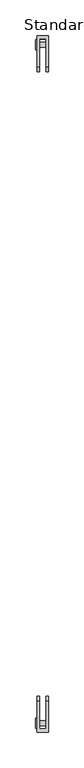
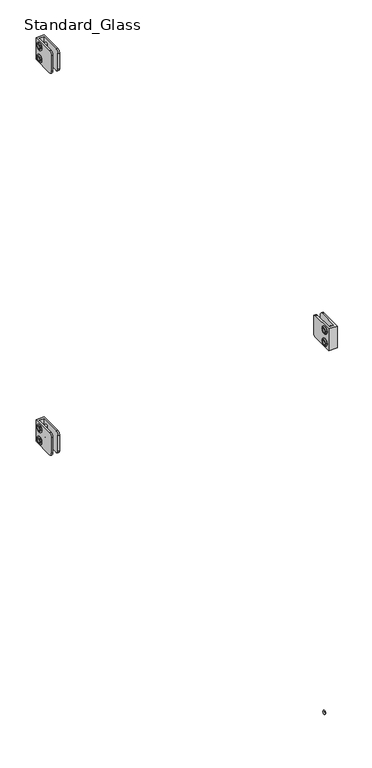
"""IFC4 building model written with IfcOpenShell, lengths in millimetres: railing geometry, Baluster-Excess-Fill-Straight-Panel-VIVA : Standard_Glass."""

from ifc_helpers import new_model, si_unit, point, frame, origin, place, context, project, spatial, polyline, circle_curve, ellipse_curve, trimmed, outline, extrude, source, transform, mapped, element, save
from ifc_brep_helpers import plane_surface, cylinder_surface, revolved_surface, advanced_brep


def standard_glass_4d50fb5e(model_context):
    return source(origin(), model_context, "Body", "SolidModel", [
        extrude(outline(polyline([(17.3185433, 917.178125), (15.2715791, 913.6326791), (11.1776508, 913.6326791), (9.1306867, 917.178125), (11.1776508, 920.7235709), (15.2715791, 920.7235709), (17.3185433, 917.178125)])), frame((21.7024185, 0.0, 0.0), z_axis=(1.0, 0.0, 0.0), x_axis=(0.0, 1.0, 0.0)), (0.0, 0.0, 1.0), 1.4969696),
        advanced_brep(
        [(36.7665, 16.7700609, 917.178125), (36.7665, 9.6791691, 917.178125), (24.0665, 9.6791691, 917.178125), (24.0665, 16.7700609, 917.178125), (24.0665, 5.8168259, 917.178125), (24.0665, 20.6324041, 917.178125), (23.199388, 14.8806904, 917.178125), (23.199388, 11.5685396, 917.178125), (36.7665, 11.5685396, 917.178125), (36.7665, 14.8806904, 917.178125), (23.2316551, 20.6324041, 917.178125), (23.2316551, 5.8168259, 917.178125), (21.9503831, 7.0980979, 917.178125), (21.9503831, 19.351132, 917.178125), (21.9503831, 8.9260194, 917.178125), (21.9503831, 17.5232105, 917.178125), (23.199388, 8.9260194, 917.178125), (23.199388, 17.5232105, 917.178125)],
        [
            (0, 1, circle_curve(frame((36.7665, 13.224615, 917.178125), z_axis=(-1.0, 0.0, 0.0), x_axis=(0.0, -1.0, 0.0)), 3.5454459)),
            (1, 2),
            (2, 3, circle_curve(frame((24.0665, 13.224615, 917.178125), z_axis=(1.0, 0.0, 0.0), x_axis=(0.0, -1.0, 0.0)), 3.5454459)),
            (3, 0),
            (1, 0, circle_curve(frame((36.7665, 13.224615, 917.178125), z_axis=(-1.0, 0.0, 0.0), x_axis=(0.0, -1.0, 0.0)), 3.5454459)),
            (3, 2, circle_curve(frame((24.0665, 13.224615, 917.178125), z_axis=(1.0, 0.0, 0.0), x_axis=(0.0, -1.0, 0.0)), 3.5454459)),
            (2, 4),
            (4, 5, circle_curve(frame((24.0665, 13.224615, 917.178125), z_axis=(1.0, 0.0, 0.0), x_axis=(0.0, -1.0, 0.0)), 7.4077891)),
            (5, 3),
            (5, 4, circle_curve(frame((24.0665, 13.224615, 917.178125), z_axis=(1.0, 0.0, 0.0), x_axis=(0.0, -1.0, 0.0)), 7.4077891)),
            (6, 7, circle_curve(frame((23.199388, 13.224615, 917.178125), z_axis=(-1.0, 0.0, 0.0), x_axis=(0.0, -1.0, 0.0)), 1.6560754)),
            (7, 8),
            (8, 9, circle_curve(frame((36.7665, 13.224615, 917.178125), z_axis=(1.0, 0.0, 0.0), x_axis=(0.0, -1.0, 0.0)), 1.6560754)),
            (9, 6),
            (7, 6, circle_curve(frame((23.199388, 13.224615, 917.178125), z_axis=(-1.0, 0.0, 0.0), x_axis=(0.0, -1.0, 0.0)), 1.6560754)),
            (9, 8, circle_curve(frame((36.7665, 13.224615, 917.178125), z_axis=(1.0, 0.0, 0.0), x_axis=(0.0, -1.0, 0.0)), 1.6560754)),
            (10, 11, circle_curve(frame((23.2316551, 13.224615, 917.178125), z_axis=(-1.0, 0.0, 0.0), x_axis=(0.0, -1.0, 0.0)), 7.4077891)),
            (11, 12, circle_curve(frame((23.2316551, 7.0980979, 917.178125), z_axis=(0.0, 0.0, -1.0), x_axis=(0.0, -1.0, 0.0)), 1.281272)),
            (12, 13, circle_curve(frame((21.9503831, 13.224615, 917.178125), z_axis=(1.0, 0.0, 0.0), x_axis=(0.0, -1.0, 0.0)), 6.1265171)),
            (13, 10, circle_curve(frame((23.2316551, 19.351132, 917.178125), z_axis=(0.0, 0.0, -1.0), x_axis=(0.0, 1.0, 0.0)), 1.281272)),
            (11, 10, circle_curve(frame((23.2316551, 13.224615, 917.178125), z_axis=(-1.0, 0.0, 0.0), x_axis=(0.0, -1.0, 0.0)), 7.4077891)),
            (13, 12, circle_curve(frame((21.9503831, 13.224615, 917.178125), z_axis=(1.0, 0.0, 0.0), x_axis=(0.0, -1.0, 0.0)), 6.1265171)),
            (12, 14),
            (14, 15, circle_curve(frame((21.9503831, 13.224615, 917.178125), z_axis=(1.0, 0.0, 0.0), x_axis=(0.0, -1.0, 0.0)), 4.2985955)),
            (15, 13),
            (15, 14, circle_curve(frame((21.9503831, 13.224615, 917.178125), z_axis=(1.0, 0.0, 0.0), x_axis=(0.0, -1.0, 0.0)), 4.2985955)),
            (4, 11),
            (10, 5),
            (8, 1),
            (0, 9),
            (14, 16),
            (16, 17, circle_curve(frame((23.199388, 13.224615, 917.178125), z_axis=(1.0, 0.0, 0.0), x_axis=(0.0, -1.0, 0.0)), 4.2985955)),
            (17, 15),
            (17, 16, circle_curve(frame((23.199388, 13.224615, 917.178125), z_axis=(1.0, 0.0, 0.0), x_axis=(0.0, -1.0, 0.0)), 4.2985955)),
            (16, 7),
            (6, 17),
        ],
        [
            cylinder_surface(frame((27.5632331, 13.224615, 917.178125), z_axis=(1.0, 0.0, 0.0), x_axis=(0.0, -1.0, 0.0)), 3.5454459),
            plane_surface(frame((24.0665, 13.224615, 917.178125), z_axis=(1.0, 0.0, 0.0), x_axis=(0.0, -1.0, 0.0))),
            revolved_surface(polyline([(36.7665, 11.5685396, 917.178125), (23.199388, 11.5685396, 917.178125)]), (27.5632331, 13.224615, 917.178125), (1.0, 0.0, 0.0)),
            revolved_surface(trimmed(ellipse_curve(frame((23.2316551, 7.0980979, 917.178125), z_axis=(0.0, 0.0, 1.0), x_axis=(0.0, -1.0, 0.0)), 1.281272, 1.281272), [point((21.9503831, 7.0980979, 917.178125))], [point((23.2316551, 5.8168259, 917.178125))], True, "CARTESIAN"), (27.5632331, 13.224615, 917.178125), (1.0, 0.0, 0.0)),
            plane_surface(frame((21.9503831, 13.224615, 917.178125), z_axis=(-1.0, 0.0, 0.0), x_axis=(0.0, -1.0, 0.0))),
            cylinder_surface(frame((27.5632331, 13.224615, 917.178125), z_axis=(1.0, 0.0, 0.0), x_axis=(0.0, -1.0, 0.0)), 7.4077891),
            plane_surface(frame((36.7665, 13.224615, 917.178125), z_axis=(1.0, 0.0, 0.0), x_axis=(0.0, -1.0, 0.0))),
            revolved_surface(polyline([(23.199388, 8.926019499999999, 917.178125), (21.9503831, 8.926019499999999, 917.178125)]), (27.5632331, 13.224615, 917.178125), (1.0, 0.0, 0.0)),
            plane_surface(frame((23.199388, 13.224615, 917.178125), z_axis=(-1.0, 0.0, 0.0), x_axis=(0.0, -1.0, 0.0))),
        ],
        [
            (0, [[1, 2, 3, 4]]),
            (0, [[5, -4, 6, -2]]),
            (1, [[-3, 7, 8, 9]]),
            (1, [[-6, -9, 10, -7]]),
            (2, [[11, 12, 13, 14]]),
            (2, [[15, -14, 16, -12]]),
            (3, [[17, 18, 19, 20]]),
            (3, [[21, -20, 22, -18]]),
            (4, [[-19, 23, 24, 25]]),
            (4, [[-22, -25, 26, -23]]),
            (5, [[-8, 27, -17, 28]]),
            (5, [[-10, -28, -21, -27]]),
            (6, [[-13, 29, -1, 30]]),
            (6, [[-16, -30, -5, -29]]),
            (7, [[-24, 31, 32, 33]]),
            (7, [[-26, -33, 34, -31]]),
            (8, [[-32, 35, -11, 36]]),
            (8, [[-34, -36, -15, -35]]),
        ],
    ),
        advanced_brep(
        [(36.7665, 16.7700609, 892.571875), (36.7665, 9.6791691, 892.571875), (24.0665, 9.6791691, 892.571875), (24.0665, 16.7700609, 892.571875), (24.0665, 5.8168259, 892.571875), (24.0665, 20.6324041, 892.571875), (23.199388, 14.8806904, 892.571875), (23.199388, 11.5685396, 892.571875), (36.7665, 11.5685396, 892.571875), (36.7665, 14.8806904, 892.571875), (23.2316551, 20.6324041, 892.571875), (23.2316551, 5.8168259, 892.571875), (21.9503831, 7.0980979, 892.571875), (21.9503831, 19.351132, 892.571875), (21.9503831, 8.9260194, 892.571875), (21.9503831, 17.5232105, 892.571875), (23.199388, 8.9260194, 892.571875), (23.199388, 17.5232105, 892.571875)],
        [
            (0, 1, circle_curve(frame((36.7665, 13.224615, 892.571875), z_axis=(-1.0, 0.0, 0.0), x_axis=(0.0, -1.0, 0.0)), 3.5454459)),
            (1, 2),
            (2, 3, circle_curve(frame((24.0665, 13.224615, 892.571875), z_axis=(1.0, 0.0, 0.0), x_axis=(0.0, -1.0, 0.0)), 3.5454459)),
            (3, 0),
            (1, 0, circle_curve(frame((36.7665, 13.224615, 892.571875), z_axis=(-1.0, 0.0, 0.0), x_axis=(0.0, -1.0, 0.0)), 3.5454459)),
            (3, 2, circle_curve(frame((24.0665, 13.224615, 892.571875), z_axis=(1.0, 0.0, 0.0), x_axis=(0.0, -1.0, 0.0)), 3.5454459)),
            (2, 4),
            (4, 5, circle_curve(frame((24.0665, 13.224615, 892.571875), z_axis=(1.0, 0.0, 0.0), x_axis=(0.0, -1.0, 0.0)), 7.4077891)),
            (5, 3),
            (5, 4, circle_curve(frame((24.0665, 13.224615, 892.571875), z_axis=(1.0, 0.0, 0.0), x_axis=(0.0, -1.0, 0.0)), 7.4077891)),
            (6, 7, circle_curve(frame((23.199388, 13.224615, 892.571875), z_axis=(-1.0, 0.0, 0.0), x_axis=(0.0, -1.0, 0.0)), 1.6560754)),
            (7, 8),
            (8, 9, circle_curve(frame((36.7665, 13.224615, 892.571875), z_axis=(1.0, 0.0, 0.0), x_axis=(0.0, -1.0, 0.0)), 1.6560754)),
            (9, 6),
            (7, 6, circle_curve(frame((23.199388, 13.224615, 892.571875), z_axis=(-1.0, 0.0, 0.0), x_axis=(0.0, -1.0, 0.0)), 1.6560754)),
            (9, 8, circle_curve(frame((36.7665, 13.224615, 892.571875), z_axis=(1.0, 0.0, 0.0), x_axis=(0.0, -1.0, 0.0)), 1.6560754)),
            (10, 11, circle_curve(frame((23.2316551, 13.224615, 892.571875), z_axis=(-1.0, 0.0, 0.0), x_axis=(0.0, -1.0, 0.0)), 7.4077891)),
            (11, 12, circle_curve(frame((23.2316551, 7.0980979, 892.571875), z_axis=(0.0, 0.0, -1.0), x_axis=(0.0, -1.0, 0.0)), 1.281272)),
            (12, 13, circle_curve(frame((21.9503831, 13.224615, 892.571875), z_axis=(1.0, 0.0, 0.0), x_axis=(0.0, -1.0, 0.0)), 6.1265171)),
            (13, 10, circle_curve(frame((23.2316551, 19.351132, 892.571875), z_axis=(0.0, 0.0, -1.0), x_axis=(0.0, 1.0, 0.0)), 1.281272)),
            (11, 10, circle_curve(frame((23.2316551, 13.224615, 892.571875), z_axis=(-1.0, 0.0, 0.0), x_axis=(0.0, -1.0, 0.0)), 7.4077891)),
            (13, 12, circle_curve(frame((21.9503831, 13.224615, 892.571875), z_axis=(1.0, 0.0, 0.0), x_axis=(0.0, -1.0, 0.0)), 6.1265171)),
            (12, 14),
            (14, 15, circle_curve(frame((21.9503831, 13.224615, 892.571875), z_axis=(1.0, 0.0, 0.0), x_axis=(0.0, -1.0, 0.0)), 4.2985955)),
            (15, 13),
            (15, 14, circle_curve(frame((21.9503831, 13.224615, 892.571875), z_axis=(1.0, 0.0, 0.0), x_axis=(0.0, -1.0, 0.0)), 4.2985955)),
            (8, 1),
            (0, 9),
            (4, 11),
            (10, 5),
            (14, 16),
            (16, 17, circle_curve(frame((23.199388, 13.224615, 892.571875), z_axis=(1.0, 0.0, 0.0), x_axis=(0.0, -1.0, 0.0)), 4.2985955)),
            (17, 15),
            (17, 16, circle_curve(frame((23.199388, 13.224615, 892.571875), z_axis=(1.0, 0.0, 0.0), x_axis=(0.0, -1.0, 0.0)), 4.2985955)),
            (16, 7),
            (6, 17),
        ],
        [
            cylinder_surface(frame((27.5632331, 13.224615, 892.571875), z_axis=(1.0, 0.0, 0.0), x_axis=(0.0, -1.0, 0.0)), 3.5454459),
            plane_surface(frame((24.0665, 13.224615, 892.571875), z_axis=(1.0, 0.0, 0.0), x_axis=(0.0, -1.0, 0.0))),
            revolved_surface(polyline([(36.7665, 11.5685396, 892.571875), (23.199388, 11.5685396, 892.571875)]), (27.5632331, 13.224615, 892.571875), (1.0, 0.0, 0.0)),
            revolved_surface(trimmed(ellipse_curve(frame((23.2316551, 7.0980979, 892.571875), z_axis=(0.0, 0.0, 1.0), x_axis=(0.0, -1.0, 0.0)), 1.281272, 1.281272), [point((21.9503831, 7.0980979, 892.571875))], [point((23.2316551, 5.8168259, 892.571875))], True, "CARTESIAN"), (27.5632331, 13.224615, 892.571875), (1.0, 0.0, 0.0)),
            plane_surface(frame((21.9503831, 13.224615, 892.571875), z_axis=(-1.0, 0.0, 0.0), x_axis=(0.0, -1.0, 0.0))),
            plane_surface(frame((36.7665, 13.224615, 892.571875), z_axis=(1.0, 0.0, 0.0), x_axis=(0.0, -1.0, 0.0))),
            cylinder_surface(frame((27.5632331, 13.224615, 892.571875), z_axis=(1.0, 0.0, 0.0), x_axis=(0.0, -1.0, 0.0)), 7.4077891),
            revolved_surface(polyline([(23.199388, 8.926019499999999, 892.571875), (21.9503831, 8.926019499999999, 892.571875)]), (27.5632331, 13.224615, 892.571875), (1.0, 0.0, 0.0)),
            plane_surface(frame((23.199388, 13.224615, 892.571875), z_axis=(-1.0, 0.0, 0.0), x_axis=(0.0, -1.0, 0.0))),
        ],
        [
            (0, [[1, 2, 3, 4]]),
            (0, [[5, -4, 6, -2]]),
            (1, [[-3, 7, 8, 9]]),
            (1, [[-6, -9, 10, -7]]),
            (2, [[11, 12, 13, 14]]),
            (2, [[15, -14, 16, -12]]),
            (3, [[17, 18, 19, 20]]),
            (3, [[21, -20, 22, -18]]),
            (4, [[-19, 23, 24, 25]]),
            (4, [[-22, -25, 26, -23]]),
            (5, [[-13, 27, -1, 28]]),
            (5, [[-16, -28, -5, -27]]),
            (6, [[-8, 29, -17, 30]]),
            (6, [[-10, -30, -21, -29]]),
            (7, [[-24, 31, 32, 33]]),
            (7, [[-26, -33, 34, -31]]),
            (8, [[-32, 35, -11, 36]]),
            (8, [[-34, -36, -15, -35]]),
        ],
    ),
        extrude(outline(polyline([(17.3185433, 892.571875), (15.2715791, 889.0264291), (11.1776508, 889.0264291), (9.1306867, 892.571875), (11.1776508, 896.1173209), (15.2715791, 896.1173209), (17.3185433, 892.571875)])), frame((21.7024185, 0.0, 0.0), z_axis=(1.0, 0.0, 0.0), x_axis=(0.0, 1.0, 0.0)), (0.0, 0.0, 1.0), 1.4969696),
        advanced_brep(
        [(24.0665, 25.8579597, 927.1), (24.0665, 25.8579597, 882.65), (24.0665, -18.5920403, 882.65), (24.0665, -24.9420403, 889.0), (24.0665, -24.9420403, 920.75), (24.0665, -18.5920403, 927.1), (39.9415, 25.8579597, 927.1), (39.9415, -18.5920403, 927.1), (39.9415, -24.9420403, 920.75), (39.9415, -24.9420403, 889.0), (39.9415, -18.5920403, 882.65), (39.9415, 25.8579597, 882.65), (36.7665, -18.5920403, 882.65), (36.7665, 21.1398793, 882.65), (27.2415, 21.1398793, 882.65), (27.2415, -18.5920403, 882.65), (36.7665, 21.1398793, 927.1), (27.2415, 21.1398793, 927.1), (27.2415, -18.5920403, 927.1), (27.2415, -24.9420403, 920.75), (27.2415, -24.9420403, 889.0), (36.7665, -24.9420403, 889.0), (36.7665, -24.9420403, 920.75), (36.7665, -18.5920403, 927.1)],
        [
            (0, 1),
            (1, 2),
            (2, 3, circle_curve(frame((24.0665, -18.5920403, 889.0), z_axis=(-1.0, 0.0, 0.0), x_axis=(0.0, -1.0, 0.0)), 6.35)),
            (3, 4),
            (4, 5, circle_curve(frame((24.0665, -18.5920403, 920.75), z_axis=(-1.0, 0.0, 0.0), x_axis=(0.0, -1.0, 0.0)), 6.35)),
            (5, 0),
            (6, 7),
            (7, 8, circle_curve(frame((39.9415, -18.5920403, 920.75), z_axis=(1.0, 0.0, 0.0), x_axis=(0.0, -1.0, 0.0)), 6.35)),
            (8, 9),
            (9, 10, circle_curve(frame((39.9415, -18.5920403, 889.0), z_axis=(1.0, 0.0, 0.0), x_axis=(0.0, -1.0, 0.0)), 6.35)),
            (10, 11),
            (11, 6),
            (0, 6),
            (11, 1),
            (10, 12),
            (12, 13),
            (13, 14),
            (14, 15),
            (15, 2),
            (13, 16),
            (16, 17),
            (17, 14),
            (17, 18),
            (18, 19, circle_curve(frame((27.2415, -18.5920403, 920.75), z_axis=(1.0, 0.0, 0.0), x_axis=(0.0, -1.0, 0.0)), 6.35)),
            (19, 20),
            (20, 15, circle_curve(frame((27.2415, -18.5920403, 889.0), z_axis=(1.0, 0.0, 0.0), x_axis=(0.0, -1.0, 0.0)), 6.35)),
            (12, 21, circle_curve(frame((36.7665, -18.5920403, 889.0), z_axis=(-1.0, 0.0, 0.0), x_axis=(0.0, -1.0, 0.0)), 6.35)),
            (21, 22),
            (22, 23, circle_curve(frame((36.7665, -18.5920403, 920.75), z_axis=(-1.0, 0.0, 0.0), x_axis=(0.0, -1.0, 0.0)), 6.35)),
            (23, 16),
            (20, 3),
            (9, 21),
            (19, 4),
            (8, 22),
            (18, 5),
            (7, 23),
        ],
        [
            plane_surface(frame((24.0665, 25.8579597, 882.65), z_axis=(-1.0, 0.0, 0.0), x_axis=(0.0, 0.0, -1.0))),
            plane_surface(frame((39.9415, 25.8579597, 882.65), z_axis=(1.0, 0.0, 0.0), x_axis=(0.0, 0.0, 1.0))),
            plane_surface(frame((24.0665, 25.8579597, 927.1), z_axis=(0.0, 1.0, 0.0), x_axis=(1.0, 0.0, 0.0))),
            plane_surface(frame((24.0665, 25.8579597, 882.65), z_axis=(0.0, 0.0, -1.0), x_axis=(1.0, 0.0, 0.0))),
            plane_surface(frame((36.7665, 21.1398793, 939.8), z_axis=(0.0, -1.0, 0.0), x_axis=(0.0, 0.0, -1.0))),
            plane_surface(frame((27.2415, 21.1398793, 939.8), z_axis=(1.0, 0.0, 0.0), x_axis=(0.0, 0.0, -1.0))),
            plane_surface(frame((36.7665, -37.6420403, 939.8), z_axis=(-1.0, 0.0, 0.0), x_axis=(0.0, 0.0, -1.0))),
            cylinder_surface(frame((39.9415, -18.5920403, 889.0), z_axis=(-1.0, 0.0, 0.0), x_axis=(0.0, -1.0, 0.0)), 6.35),
            plane_surface(frame((24.0665, -24.9420403, 889.0), z_axis=(0.0, -1.0, 0.0), x_axis=(1.0, 0.0, 0.0))),
            cylinder_surface(frame((39.9415, -18.5920403, 920.75), z_axis=(-1.0, 0.0, 0.0), x_axis=(0.0, -1.0, 0.0)), 6.35),
            plane_surface(frame((24.0665, -18.5920403, 927.1), z_axis=(0.0, 0.0, 1.0), x_axis=(1.0, 0.0, 0.0))),
        ],
        [
            (0, [[1, 2, 3, 4, 5, 6]]),
            (1, [[7, 8, 9, 10, 11, 12]]),
            (2, [[-1, 13, -12, 14]]),
            (3, [[-2, -14, -11, 15, 16, 17, 18, 19]]),
            (4, [[20, 21, 22, -17]]),
            (5, [[-22, 23, 24, 25, 26, -18]]),
            (6, [[-20, -16, 27, 28, 29, 30]]),
            (7, [[-3, -19, -26, 31]]),
            (7, [[-10, 32, -27, -15]]),
            (8, [[-4, -31, -25, 33]]),
            (8, [[-9, 34, -28, -32]]),
            (9, [[-5, -33, -24, 35]]),
            (9, [[-8, 36, -29, -34]]),
            (10, [[-6, -35, -23, -21, -30, -36, -7, -13]]),
        ],
    ),
        extrude(outline(polyline([(17.3185433, 138.7358896), (15.2715791, 135.1904437), (11.1776508, 135.1904437), (9.1306867, 138.7358896), (11.1776508, 142.2813355), (15.2715791, 142.2813355), (17.3185433, 138.7358896)])), frame((21.7024185, 0.0, 0.0), z_axis=(1.0, 0.0, 0.0), x_axis=(0.0, 1.0, 0.0)), (0.0, 0.0, 1.0), 1.4969696),
        advanced_brep(
        [(36.7665, 16.7700609, 138.7358896), (36.7665, 9.6791691, 138.7358896), (24.0665, 9.6791691, 138.7358896), (24.0665, 16.7700609, 138.7358896), (24.0665, 5.8168259, 138.7358896), (24.0665, 20.6324041, 138.7358896), (23.199388, 14.8806904, 138.7358896), (23.199388, 11.5685396, 138.7358896), (36.7665, 11.5685396, 138.7358896), (36.7665, 14.8806904, 138.7358896), (23.2316551, 20.6324041, 138.7358896), (23.2316551, 5.8168259, 138.7358896), (21.9503831, 7.0980979, 138.7358896), (21.9503831, 19.351132, 138.7358896), (21.9503831, 8.9260194, 138.7358896), (21.9503831, 17.5232105, 138.7358896), (23.199388, 8.9260194, 138.7358896), (23.199388, 17.5232105, 138.7358896)],
        [
            (0, 1, circle_curve(frame((36.7665, 13.224615, 138.7358896), z_axis=(-1.0, 0.0, 0.0), x_axis=(0.0, -1.0, 0.0)), 3.5454459)),
            (1, 2),
            (2, 3, circle_curve(frame((24.0665, 13.224615, 138.7358896), z_axis=(1.0, 0.0, 0.0), x_axis=(0.0, -1.0, 0.0)), 3.5454459)),
            (3, 0),
            (1, 0, circle_curve(frame((36.7665, 13.224615, 138.7358896), z_axis=(-1.0, 0.0, 0.0), x_axis=(0.0, -1.0, 0.0)), 3.5454459)),
            (3, 2, circle_curve(frame((24.0665, 13.224615, 138.7358896), z_axis=(1.0, 0.0, 0.0), x_axis=(0.0, -1.0, 0.0)), 3.5454459)),
            (2, 4),
            (4, 5, circle_curve(frame((24.0665, 13.224615, 138.7358896), z_axis=(1.0, 0.0, 0.0), x_axis=(0.0, -1.0, 0.0)), 7.4077891)),
            (5, 3),
            (5, 4, circle_curve(frame((24.0665, 13.224615, 138.7358896), z_axis=(1.0, 0.0, 0.0), x_axis=(0.0, -1.0, 0.0)), 7.4077891)),
            (6, 7, circle_curve(frame((23.199388, 13.224615, 138.7358896), z_axis=(-1.0, 0.0, 0.0), x_axis=(0.0, -1.0, 0.0)), 1.6560754)),
            (7, 8),
            (8, 9, circle_curve(frame((36.7665, 13.224615, 138.7358896), z_axis=(1.0, 0.0, 0.0), x_axis=(0.0, -1.0, 0.0)), 1.6560754)),
            (9, 6),
            (7, 6, circle_curve(frame((23.199388, 13.224615, 138.7358896), z_axis=(-1.0, 0.0, 0.0), x_axis=(0.0, -1.0, 0.0)), 1.6560754)),
            (9, 8, circle_curve(frame((36.7665, 13.224615, 138.7358896), z_axis=(1.0, 0.0, 0.0), x_axis=(0.0, -1.0, 0.0)), 1.6560754)),
            (10, 11, circle_curve(frame((23.2316551, 13.224615, 138.7358896), z_axis=(-1.0, 0.0, 0.0), x_axis=(0.0, -1.0, 0.0)), 7.4077891)),
            (11, 12, circle_curve(frame((23.2316551, 7.0980979, 138.7358896), z_axis=(0.0, 0.0, -1.0), x_axis=(0.0, -1.0, 0.0)), 1.281272)),
            (12, 13, circle_curve(frame((21.9503831, 13.224615, 138.7358896), z_axis=(1.0, 0.0, 0.0), x_axis=(0.0, -1.0, 0.0)), 6.1265171)),
            (13, 10, circle_curve(frame((23.2316551, 19.351132, 138.7358896), z_axis=(0.0, 0.0, -1.0), x_axis=(0.0, 1.0, 0.0)), 1.281272)),
            (11, 10, circle_curve(frame((23.2316551, 13.224615, 138.7358896), z_axis=(-1.0, 0.0, 0.0), x_axis=(0.0, -1.0, 0.0)), 7.4077891)),
            (13, 12, circle_curve(frame((21.9503831, 13.224615, 138.7358896), z_axis=(1.0, 0.0, 0.0), x_axis=(0.0, -1.0, 0.0)), 6.1265171)),
            (12, 14),
            (14, 15, circle_curve(frame((21.9503831, 13.224615, 138.7358896), z_axis=(1.0, 0.0, 0.0), x_axis=(0.0, -1.0, 0.0)), 4.2985955)),
            (15, 13),
            (15, 14, circle_curve(frame((21.9503831, 13.224615, 138.7358896), z_axis=(1.0, 0.0, 0.0), x_axis=(0.0, -1.0, 0.0)), 4.2985955)),
            (4, 11),
            (10, 5),
            (8, 1),
            (0, 9),
            (14, 16),
            (16, 17, circle_curve(frame((23.199388, 13.224615, 138.7358896), z_axis=(1.0, 0.0, 0.0), x_axis=(0.0, -1.0, 0.0)), 4.2985955)),
            (17, 15),
            (17, 16, circle_curve(frame((23.199388, 13.224615, 138.7358896), z_axis=(1.0, 0.0, 0.0), x_axis=(0.0, -1.0, 0.0)), 4.2985955)),
            (16, 7),
            (6, 17),
        ],
        [
            cylinder_surface(frame((27.5632331, 13.224615, 138.7358896), z_axis=(1.0, 0.0, 0.0), x_axis=(0.0, -1.0, 0.0)), 3.5454459),
            plane_surface(frame((24.0665, 13.224615, 138.7358896), z_axis=(1.0, 0.0, 0.0), x_axis=(0.0, -1.0, 0.0))),
            revolved_surface(polyline([(36.7665, 11.5685396, 138.7358896), (23.199388, 11.5685396, 138.7358896)]), (27.5632331, 13.224615, 138.7358896), (1.0, 0.0, 0.0)),
            revolved_surface(trimmed(ellipse_curve(frame((23.2316551, 7.0980979, 138.7358896), z_axis=(0.0, 0.0, 1.0), x_axis=(0.0, -1.0, 0.0)), 1.281272, 1.281272), [point((21.9503831, 7.0980979, 138.7358896))], [point((23.2316551, 5.8168259, 138.7358896))], True, "CARTESIAN"), (27.5632331, 13.224615, 138.7358896), (1.0, 0.0, 0.0)),
            plane_surface(frame((21.9503831, 13.224615, 138.7358896), z_axis=(-1.0, 0.0, 0.0), x_axis=(0.0, -1.0, 0.0))),
            cylinder_surface(frame((27.5632331, 13.224615, 138.7358896), z_axis=(1.0, 0.0, 0.0), x_axis=(0.0, -1.0, 0.0)), 7.4077891),
            plane_surface(frame((36.7665, 13.224615, 138.7358896), z_axis=(1.0, 0.0, 0.0), x_axis=(0.0, -1.0, 0.0))),
            revolved_surface(polyline([(23.199388, 8.926019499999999, 138.7358896), (21.9503831, 8.926019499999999, 138.7358896)]), (27.5632331, 13.224615, 138.7358896), (1.0, 0.0, 0.0)),
            plane_surface(frame((23.199388, 13.224615, 138.7358896), z_axis=(-1.0, 0.0, 0.0), x_axis=(0.0, -1.0, 0.0))),
        ],
        [
            (0, [[1, 2, 3, 4]]),
            (0, [[5, -4, 6, -2]]),
            (1, [[-3, 7, 8, 9]]),
            (1, [[-6, -9, 10, -7]]),
            (2, [[11, 12, 13, 14]]),
            (2, [[15, -14, 16, -12]]),
            (3, [[17, 18, 19, 20]]),
            (3, [[21, -20, 22, -18]]),
            (4, [[-19, 23, 24, 25]]),
            (4, [[-22, -25, 26, -23]]),
            (5, [[-8, 27, -17, 28]]),
            (5, [[-10, -28, -21, -27]]),
            (6, [[-13, 29, -1, 30]]),
            (6, [[-16, -30, -5, -29]]),
            (7, [[-24, 31, 32, 33]]),
            (7, [[-26, -33, 34, -31]]),
            (8, [[-32, 35, -11, 36]]),
            (8, [[-34, -36, -15, -35]]),
        ],
    ),
        advanced_brep(
        [(36.7665, 16.7700609, 114.1296396), (36.7665, 9.6791691, 114.1296396), (24.0665, 9.6791691, 114.1296396), (24.0665, 16.7700609, 114.1296396), (24.0665, 5.8168259, 114.1296396), (24.0665, 20.6324041, 114.1296396), (23.199388, 14.8806904, 114.1296396), (23.199388, 11.5685396, 114.1296396), (36.7665, 11.5685396, 114.1296396), (36.7665, 14.8806904, 114.1296396), (23.2316551, 20.6324041, 114.1296396), (23.2316551, 5.8168259, 114.1296396), (21.9503831, 7.0980979, 114.1296396), (21.9503831, 19.351132, 114.1296396), (21.9503831, 8.9260194, 114.1296396), (21.9503831, 17.5232105, 114.1296396), (23.199388, 8.9260194, 114.1296396), (23.199388, 17.5232105, 114.1296396)],
        [
            (0, 1, circle_curve(frame((36.7665, 13.224615, 114.1296396), z_axis=(-1.0, 0.0, 0.0), x_axis=(0.0, -1.0, 0.0)), 3.5454459)),
            (1, 2),
            (2, 3, circle_curve(frame((24.0665, 13.224615, 114.1296396), z_axis=(1.0, 0.0, 0.0), x_axis=(0.0, -1.0, 0.0)), 3.5454459)),
            (3, 0),
            (1, 0, circle_curve(frame((36.7665, 13.224615, 114.1296396), z_axis=(-1.0, 0.0, 0.0), x_axis=(0.0, -1.0, 0.0)), 3.5454459)),
            (3, 2, circle_curve(frame((24.0665, 13.224615, 114.1296396), z_axis=(1.0, 0.0, 0.0), x_axis=(0.0, -1.0, 0.0)), 3.5454459)),
            (2, 4),
            (4, 5, circle_curve(frame((24.0665, 13.224615, 114.1296396), z_axis=(1.0, 0.0, 0.0), x_axis=(0.0, -1.0, 0.0)), 7.4077891)),
            (5, 3),
            (5, 4, circle_curve(frame((24.0665, 13.224615, 114.1296396), z_axis=(1.0, 0.0, 0.0), x_axis=(0.0, -1.0, 0.0)), 7.4077891)),
            (6, 7, circle_curve(frame((23.199388, 13.224615, 114.1296396), z_axis=(-1.0, 0.0, 0.0), x_axis=(0.0, -1.0, 0.0)), 1.6560754)),
            (7, 8),
            (8, 9, circle_curve(frame((36.7665, 13.224615, 114.1296396), z_axis=(1.0, 0.0, 0.0), x_axis=(0.0, -1.0, 0.0)), 1.6560754)),
            (9, 6),
            (7, 6, circle_curve(frame((23.199388, 13.224615, 114.1296396), z_axis=(-1.0, 0.0, 0.0), x_axis=(0.0, -1.0, 0.0)), 1.6560754)),
            (9, 8, circle_curve(frame((36.7665, 13.224615, 114.1296396), z_axis=(1.0, 0.0, 0.0), x_axis=(0.0, -1.0, 0.0)), 1.6560754)),
            (10, 11, circle_curve(frame((23.2316551, 13.224615, 114.1296396), z_axis=(-1.0, 0.0, 0.0), x_axis=(0.0, -1.0, 0.0)), 7.4077891)),
            (11, 12, circle_curve(frame((23.2316551, 7.0980979, 114.1296396), z_axis=(0.0, 0.0, -1.0), x_axis=(0.0, -1.0, 0.0)), 1.281272)),
            (12, 13, circle_curve(frame((21.9503831, 13.224615, 114.1296396), z_axis=(1.0, 0.0, 0.0), x_axis=(0.0, -1.0, 0.0)), 6.1265171)),
            (13, 10, circle_curve(frame((23.2316551, 19.351132, 114.1296396), z_axis=(0.0, 0.0, -1.0), x_axis=(0.0, 1.0, 0.0)), 1.281272)),
            (11, 10, circle_curve(frame((23.2316551, 13.224615, 114.1296396), z_axis=(-1.0, 0.0, 0.0), x_axis=(0.0, -1.0, 0.0)), 7.4077891)),
            (13, 12, circle_curve(frame((21.9503831, 13.224615, 114.1296396), z_axis=(1.0, 0.0, 0.0), x_axis=(0.0, -1.0, 0.0)), 6.1265171)),
            (12, 14),
            (14, 15, circle_curve(frame((21.9503831, 13.224615, 114.1296396), z_axis=(1.0, 0.0, 0.0), x_axis=(0.0, -1.0, 0.0)), 4.2985955)),
            (15, 13),
            (15, 14, circle_curve(frame((21.9503831, 13.224615, 114.1296396), z_axis=(1.0, 0.0, 0.0), x_axis=(0.0, -1.0, 0.0)), 4.2985955)),
            (8, 1),
            (0, 9),
            (4, 11),
            (10, 5),
            (14, 16),
            (16, 17, circle_curve(frame((23.199388, 13.224615, 114.1296396), z_axis=(1.0, 0.0, 0.0), x_axis=(0.0, -1.0, 0.0)), 4.2985955)),
            (17, 15),
            (17, 16, circle_curve(frame((23.199388, 13.224615, 114.1296396), z_axis=(1.0, 0.0, 0.0), x_axis=(0.0, -1.0, 0.0)), 4.2985955)),
            (16, 7),
            (6, 17),
        ],
        [
            cylinder_surface(frame((27.5632331, 13.224615, 114.1296396), z_axis=(1.0, 0.0, 0.0), x_axis=(0.0, -1.0, 0.0)), 3.5454459),
            plane_surface(frame((24.0665, 13.224615, 114.1296396), z_axis=(1.0, 0.0, 0.0), x_axis=(0.0, -1.0, 0.0))),
            revolved_surface(polyline([(36.7665, 11.5685396, 114.1296396), (23.199388, 11.5685396, 114.1296396)]), (27.5632331, 13.224615, 114.1296396), (1.0, 0.0, 0.0)),
            revolved_surface(trimmed(ellipse_curve(frame((23.2316551, 7.0980979, 114.1296396), z_axis=(0.0, 0.0, 1.0), x_axis=(0.0, -1.0, 0.0)), 1.281272, 1.281272), [point((21.9503831, 7.0980979, 114.1296396))], [point((23.2316551, 5.8168259, 114.1296396))], True, "CARTESIAN"), (27.5632331, 13.224615, 114.1296396), (1.0, 0.0, 0.0)),
            plane_surface(frame((21.9503831, 13.224615, 114.1296396), z_axis=(-1.0, 0.0, 0.0), x_axis=(0.0, -1.0, 0.0))),
            plane_surface(frame((36.7665, 13.224615, 114.1296396), z_axis=(1.0, 0.0, 0.0), x_axis=(0.0, -1.0, 0.0))),
            cylinder_surface(frame((27.5632331, 13.224615, 114.1296396), z_axis=(1.0, 0.0, 0.0), x_axis=(0.0, -1.0, 0.0)), 7.4077891),
            revolved_surface(polyline([(23.199388, 8.926019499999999, 114.1296396), (21.9503831, 8.926019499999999, 114.1296396)]), (27.5632331, 13.224615, 114.1296396), (1.0, 0.0, 0.0)),
            plane_surface(frame((23.199388, 13.224615, 114.1296396), z_axis=(-1.0, 0.0, 0.0), x_axis=(0.0, -1.0, 0.0))),
        ],
        [
            (0, [[1, 2, 3, 4]]),
            (0, [[5, -4, 6, -2]]),
            (1, [[-3, 7, 8, 9]]),
            (1, [[-6, -9, 10, -7]]),
            (2, [[11, 12, 13, 14]]),
            (2, [[15, -14, 16, -12]]),
            (3, [[17, 18, 19, 20]]),
            (3, [[21, -20, 22, -18]]),
            (4, [[-19, 23, 24, 25]]),
            (4, [[-22, -25, 26, -23]]),
            (5, [[-13, 27, -1, 28]]),
            (5, [[-16, -28, -5, -27]]),
            (6, [[-8, 29, -17, 30]]),
            (6, [[-10, -30, -21, -29]]),
            (7, [[-24, 31, 32, 33]]),
            (7, [[-26, -33, 34, -31]]),
            (8, [[-32, 35, -11, 36]]),
            (8, [[-34, -36, -15, -35]]),
        ],
    ),
        extrude(outline(polyline([(17.3185433, 114.1296396), (15.2715791, 110.5841937), (11.1776508, 110.5841937), (9.1306867, 114.1296396), (11.1776508, 117.6750855), (15.2715791, 117.6750855), (17.3185433, 114.1296396)])), frame((21.7024185, 0.0, 0.0), z_axis=(1.0, 0.0, 0.0), x_axis=(0.0, 1.0, 0.0)), (0.0, 0.0, 1.0), 1.4969696),
        advanced_brep(
        [(24.0665, 25.8579597, 148.6577646), (24.0665, 25.8579597, 104.2077646), (24.0665, -18.5920403, 104.2077646), (24.0665, -24.9420403, 110.5577646), (24.0665, -24.9420403, 142.3077646), (24.0665, -18.5920403, 148.6577646), (39.9415, 25.8579597, 148.6577646), (39.9415, -18.5920403, 148.6577646), (39.9415, -24.9420403, 142.3077646), (39.9415, -24.9420403, 110.5577646), (39.9415, -18.5920403, 104.2077646), (39.9415, 25.8579597, 104.2077646), (36.7665, -18.5920403, 104.2077646), (36.7665, 21.1398793, 104.2077646), (27.2415, 21.1398793, 104.2077646), (27.2415, -18.5920403, 104.2077646), (36.7665, 21.1398793, 148.6577646), (27.2415, 21.1398793, 148.6577646), (27.2415, -18.5920403, 148.6577646), (27.2415, -24.9420403, 142.3077646), (27.2415, -24.9420403, 110.5577646), (36.7665, -24.9420403, 110.5577646), (36.7665, -24.9420403, 142.3077646), (36.7665, -18.5920403, 148.6577646)],
        [
            (0, 1),
            (1, 2),
            (2, 3, circle_curve(frame((24.0665, -18.5920403, 110.5577646), z_axis=(-1.0, 0.0, 0.0), x_axis=(0.0, -1.0, 0.0)), 6.35)),
            (3, 4),
            (4, 5, circle_curve(frame((24.0665, -18.5920403, 142.3077646), z_axis=(-1.0, 0.0, 0.0), x_axis=(0.0, -1.0, 0.0)), 6.35)),
            (5, 0),
            (6, 7),
            (7, 8, circle_curve(frame((39.9415, -18.5920403, 142.3077646), z_axis=(1.0, 0.0, 0.0), x_axis=(0.0, -1.0, 0.0)), 6.35)),
            (8, 9),
            (9, 10, circle_curve(frame((39.9415, -18.5920403, 110.5577646), z_axis=(1.0, 0.0, 0.0), x_axis=(0.0, -1.0, 0.0)), 6.35)),
            (10, 11),
            (11, 6),
            (0, 6),
            (11, 1),
            (10, 12),
            (12, 13),
            (13, 14),
            (14, 15),
            (15, 2),
            (13, 16),
            (16, 17),
            (17, 14),
            (17, 18),
            (18, 19, circle_curve(frame((27.2415, -18.5920403, 142.3077646), z_axis=(1.0, 0.0, 0.0), x_axis=(0.0, -1.0, 0.0)), 6.35)),
            (19, 20),
            (20, 15, circle_curve(frame((27.2415, -18.5920403, 110.5577646), z_axis=(1.0, 0.0, 0.0), x_axis=(0.0, -1.0, 0.0)), 6.35)),
            (12, 21, circle_curve(frame((36.7665, -18.5920403, 110.5577646), z_axis=(-1.0, 0.0, 0.0), x_axis=(0.0, -1.0, 0.0)), 6.35)),
            (21, 22),
            (22, 23, circle_curve(frame((36.7665, -18.5920403, 142.3077646), z_axis=(-1.0, 0.0, 0.0), x_axis=(0.0, -1.0, 0.0)), 6.35)),
            (23, 16),
            (20, 3),
            (9, 21),
            (19, 4),
            (8, 22),
            (18, 5),
            (7, 23),
        ],
        [
            plane_surface(frame((24.0665, 25.8579597, 104.2077646), z_axis=(-1.0, 0.0, 0.0), x_axis=(0.0, 0.0, -1.0))),
            plane_surface(frame((39.9415, 25.8579597, 104.2077646), z_axis=(1.0, 0.0, 0.0), x_axis=(0.0, 0.0, 1.0))),
            plane_surface(frame((24.0665, 25.8579597, 148.6577646), z_axis=(0.0, 1.0, 0.0), x_axis=(1.0, 0.0, 0.0))),
            plane_surface(frame((24.0665, 25.8579597, 104.2077646), z_axis=(0.0, 0.0, -1.0), x_axis=(1.0, 0.0, 0.0))),
            plane_surface(frame((36.7665, 21.1398793, 161.3577646), z_axis=(0.0, -1.0, 0.0), x_axis=(0.0, 0.0, -1.0))),
            plane_surface(frame((27.2415, 21.1398793, 161.3577646), z_axis=(1.0, 0.0, 0.0), x_axis=(0.0, 0.0, -1.0))),
            plane_surface(frame((36.7665, -37.6420403, 161.3577646), z_axis=(-1.0, 0.0, 0.0), x_axis=(0.0, 0.0, -1.0))),
            cylinder_surface(frame((39.9415, -18.5920403, 110.5577646), z_axis=(-1.0, 0.0, 0.0), x_axis=(0.0, -1.0, 0.0)), 6.35),
            plane_surface(frame((24.0665, -24.9420403, 110.5577646), z_axis=(0.0, -1.0, 0.0), x_axis=(1.0, 0.0, 0.0))),
            cylinder_surface(frame((39.9415, -18.5920403, 142.3077646), z_axis=(-1.0, 0.0, 0.0), x_axis=(0.0, -1.0, 0.0)), 6.35),
            plane_surface(frame((24.0665, -18.5920403, 148.6577646), z_axis=(0.0, 0.0, 1.0), x_axis=(1.0, 0.0, 0.0))),
        ],
        [
            (0, [[1, 2, 3, 4, 5, 6]]),
            (1, [[7, 8, 9, 10, 11, 12]]),
            (2, [[-1, 13, -12, 14]]),
            (3, [[-2, -14, -11, 15, 16, 17, 18, 19]]),
            (4, [[20, 21, 22, -17]]),
            (5, [[-22, 23, 24, 25, 26, -18]]),
            (6, [[-20, -16, 27, 28, 29, 30]]),
            (7, [[-3, -19, -26, 31]]),
            (7, [[-10, 32, -27, -15]]),
            (8, [[-4, -31, -25, 33]]),
            (8, [[-9, 34, -28, -32]]),
            (9, [[-5, -33, -24, 35]]),
            (9, [[-8, 36, -29, -34]]),
            (10, [[-6, -35, -23, -21, -30, -36, -7, -13]]),
        ],
    ),
        extrude(outline(polyline([(-944.4261954, 917.178125), (-942.3792313, 920.7235709), (-938.285303, 920.7235709), (-936.2383388, 917.178125), (-938.285303, 913.6326791), (-942.3792313, 913.6326791), (-944.4261954, 917.178125)])), frame((21.7024185, 0.0, 0.0), z_axis=(1.0, 0.0, 0.0), x_axis=(0.0, 1.0, 0.0)), (0.0, 0.0, 1.0), 1.4969696),
        advanced_brep(
        [(36.7665, -943.877713, 917.178125), (24.0665, -943.877713, 917.178125), (24.0665, -936.7868212, 917.178125), (36.7665, -936.7868212, 917.178125), (24.0665, -947.7400562, 917.178125), (24.0665, -932.924478, 917.178125), (23.199388, -941.9883425, 917.178125), (36.7665, -941.9883425, 917.178125), (36.7665, -938.6761917, 917.178125), (23.199388, -938.6761917, 917.178125), (23.2316551, -947.7400562, 917.178125), (21.9503831, -946.4587842, 917.178125), (21.9503831, -934.2057501, 917.178125), (23.2316551, -932.924478, 917.178125), (21.9503831, -944.6308627, 917.178125), (21.9503831, -936.0336716, 917.178125), (23.199388, -944.6308627, 917.178125), (23.199388, -936.0336716, 917.178125)],
        [
            (0, 1),
            (1, 2, circle_curve(frame((24.0665, -940.3322671, 917.178125), z_axis=(1.0, 0.0, 0.0), x_axis=(0.0, 1.0, 0.0)), 3.5454459)),
            (2, 3),
            (3, 0, circle_curve(frame((36.7665, -940.3322671, 917.178125), z_axis=(-1.0, 0.0, 0.0), x_axis=(0.0, 1.0, 0.0)), 3.5454459)),
            (2, 1, circle_curve(frame((24.0665, -940.3322671, 917.178125), z_axis=(1.0, 0.0, 0.0), x_axis=(0.0, 1.0, 0.0)), 3.5454459)),
            (0, 3, circle_curve(frame((36.7665, -940.3322671, 917.178125), z_axis=(-1.0, 0.0, 0.0), x_axis=(0.0, 1.0, 0.0)), 3.5454459)),
            (1, 4),
            (4, 5, circle_curve(frame((24.0665, -940.3322671, 917.178125), z_axis=(1.0, 0.0, 0.0), x_axis=(0.0, 1.0, 0.0)), 7.4077891)),
            (5, 2),
            (5, 4, circle_curve(frame((24.0665, -940.3322671, 917.178125), z_axis=(1.0, 0.0, 0.0), x_axis=(0.0, 1.0, 0.0)), 7.4077891)),
            (6, 7),
            (7, 8, circle_curve(frame((36.7665, -940.3322671, 917.178125), z_axis=(1.0, 0.0, 0.0), x_axis=(0.0, 1.0, 0.0)), 1.6560754)),
            (8, 9),
            (9, 6, circle_curve(frame((23.199388, -940.3322671, 917.178125), z_axis=(-1.0, 0.0, 0.0), x_axis=(0.0, 1.0, 0.0)), 1.6560754)),
            (8, 7, circle_curve(frame((36.7665, -940.3322671, 917.178125), z_axis=(1.0, 0.0, 0.0), x_axis=(0.0, 1.0, 0.0)), 1.6560754)),
            (6, 9, circle_curve(frame((23.199388, -940.3322671, 917.178125), z_axis=(-1.0, 0.0, 0.0), x_axis=(0.0, 1.0, 0.0)), 1.6560754)),
            (10, 11, circle_curve(frame((23.2316551, -946.4587842, 917.178125), z_axis=(0.0, 0.0, -1.0), x_axis=(0.0, -1.0, 0.0)), 1.281272)),
            (11, 12, circle_curve(frame((21.9503831, -940.3322671, 917.178125), z_axis=(1.0, 0.0, 0.0), x_axis=(0.0, 1.0, 0.0)), 6.1265171)),
            (12, 13, circle_curve(frame((23.2316551, -934.2057501, 917.178125), z_axis=(0.0, 0.0, -1.0), x_axis=(0.0, 1.0, 0.0)), 1.281272)),
            (13, 10, circle_curve(frame((23.2316551, -940.3322671, 917.178125), z_axis=(-1.0, 0.0, 0.0), x_axis=(0.0, 1.0, 0.0)), 7.4077891)),
            (12, 11, circle_curve(frame((21.9503831, -940.3322671, 917.178125), z_axis=(1.0, 0.0, 0.0), x_axis=(0.0, 1.0, 0.0)), 6.1265171)),
            (10, 13, circle_curve(frame((23.2316551, -940.3322671, 917.178125), z_axis=(-1.0, 0.0, 0.0), x_axis=(0.0, 1.0, 0.0)), 7.4077891)),
            (11, 14),
            (14, 15, circle_curve(frame((21.9503831, -940.3322671, 917.178125), z_axis=(1.0, 0.0, 0.0), x_axis=(0.0, 1.0, 0.0)), 4.2985955)),
            (15, 12),
            (15, 14, circle_curve(frame((21.9503831, -940.3322671, 917.178125), z_axis=(1.0, 0.0, 0.0), x_axis=(0.0, 1.0, 0.0)), 4.2985955)),
            (4, 10),
            (13, 5),
            (7, 0),
            (3, 8),
            (14, 16),
            (16, 17, circle_curve(frame((23.199388, -940.3322671, 917.178125), z_axis=(1.0, 0.0, 0.0), x_axis=(0.0, 1.0, 0.0)), 4.2985955)),
            (17, 15),
            (17, 16, circle_curve(frame((23.199388, -940.3322671, 917.178125), z_axis=(1.0, 0.0, 0.0), x_axis=(0.0, 1.0, 0.0)), 4.2985955)),
            (16, 6),
            (9, 17),
        ],
        [
            cylinder_surface(frame((27.5632331, -940.3322671, 917.178125), z_axis=(1.0, 0.0, 0.0), x_axis=(0.0, 1.0, 0.0)), 3.5454459),
            plane_surface(frame((24.0665, -940.3322671, 917.178125), z_axis=(1.0, 0.0, 0.0), x_axis=(0.0, 1.0, 0.0))),
            revolved_surface(polyline([(36.7665, -938.6761917, 917.178125), (23.199388, -938.6761917, 917.178125)]), (27.5632331, -940.3322671, 917.178125), (1.0, 0.0, 0.0)),
            revolved_surface(trimmed(ellipse_curve(frame((23.2316551, -934.2057501, 917.178125), z_axis=(0.0, 0.0, -1.0), x_axis=(0.0, 1.0, 0.0)), 1.281272, 1.281272), [point((21.9503831, -934.2057501, 917.178125))], [point((23.2316551, -932.924478, 917.178125))], True, "CARTESIAN"), (27.5632331, -940.3322671, 917.178125), (1.0, 0.0, 0.0)),
            plane_surface(frame((21.9503831, -940.3322671, 917.178125), z_axis=(-1.0, 0.0, 0.0), x_axis=(0.0, 1.0, 0.0))),
            cylinder_surface(frame((27.5632331, -940.3322671, 917.178125), z_axis=(1.0, 0.0, 0.0), x_axis=(0.0, 1.0, 0.0)), 7.4077891),
            plane_surface(frame((36.7665, -940.3322671, 917.178125), z_axis=(1.0, 0.0, 0.0), x_axis=(0.0, 1.0, 0.0))),
            revolved_surface(polyline([(23.199388, -936.0336715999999, 917.178125), (21.9503831, -936.0336715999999, 917.178125)]), (27.5632331, -940.3322671, 917.178125), (1.0, 0.0, 0.0)),
            plane_surface(frame((23.199388, -940.3322671, 917.178125), z_axis=(-1.0, 0.0, 0.0), x_axis=(0.0, 1.0, 0.0))),
        ],
        [
            (0, [[1, 2, 3, 4]]),
            (0, [[-3, 5, -1, 6]]),
            (1, [[7, 8, 9, -2]]),
            (1, [[-9, 10, -7, -5]]),
            (2, [[11, 12, 13, 14]]),
            (2, [[-13, 15, -11, 16]]),
            (3, [[17, 18, 19, 20]]),
            (3, [[-19, 21, -17, 22]]),
            (4, [[23, 24, 25, -18]]),
            (4, [[-25, 26, -23, -21]]),
            (5, [[27, -20, 28, -8]]),
            (5, [[-28, -22, -27, -10]]),
            (6, [[29, -4, 30, -12]]),
            (6, [[-30, -6, -29, -15]]),
            (7, [[31, 32, 33, -24]]),
            (7, [[-33, 34, -31, -26]]),
            (8, [[35, -14, 36, -32]]),
            (8, [[-36, -16, -35, -34]]),
        ],
    ),
        advanced_brep(
        [(36.7665, -943.877713, 892.571875), (24.0665, -943.877713, 892.571875), (24.0665, -936.7868212, 892.571875), (36.7665, -936.7868212, 892.571875), (24.0665, -947.7400562, 892.571875), (24.0665, -932.924478, 892.571875), (23.199388, -941.9883425, 892.571875), (36.7665, -941.9883425, 892.571875), (36.7665, -938.6761917, 892.571875), (23.199388, -938.6761917, 892.571875), (23.2316551, -947.7400562, 892.571875), (21.9503831, -946.4587842, 892.571875), (21.9503831, -934.2057501, 892.571875), (23.2316551, -932.924478, 892.571875), (21.9503831, -944.6308627, 892.571875), (21.9503831, -936.0336716, 892.571875), (23.199388, -944.6308627, 892.571875), (23.199388, -936.0336716, 892.571875)],
        [
            (0, 1),
            (1, 2, circle_curve(frame((24.0665, -940.3322671, 892.571875), z_axis=(1.0, 0.0, 0.0), x_axis=(0.0, 1.0, 0.0)), 3.5454459)),
            (2, 3),
            (3, 0, circle_curve(frame((36.7665, -940.3322671, 892.571875), z_axis=(-1.0, 0.0, 0.0), x_axis=(0.0, 1.0, 0.0)), 3.5454459)),
            (2, 1, circle_curve(frame((24.0665, -940.3322671, 892.571875), z_axis=(1.0, 0.0, 0.0), x_axis=(0.0, 1.0, 0.0)), 3.5454459)),
            (0, 3, circle_curve(frame((36.7665, -940.3322671, 892.571875), z_axis=(-1.0, 0.0, 0.0), x_axis=(0.0, 1.0, 0.0)), 3.5454459)),
            (1, 4),
            (4, 5, circle_curve(frame((24.0665, -940.3322671, 892.571875), z_axis=(1.0, 0.0, 0.0), x_axis=(0.0, 1.0, 0.0)), 7.4077891)),
            (5, 2),
            (5, 4, circle_curve(frame((24.0665, -940.3322671, 892.571875), z_axis=(1.0, 0.0, 0.0), x_axis=(0.0, 1.0, 0.0)), 7.4077891)),
            (6, 7),
            (7, 8, circle_curve(frame((36.7665, -940.3322671, 892.571875), z_axis=(1.0, 0.0, 0.0), x_axis=(0.0, 1.0, 0.0)), 1.6560754)),
            (8, 9),
            (9, 6, circle_curve(frame((23.199388, -940.3322671, 892.571875), z_axis=(-1.0, 0.0, 0.0), x_axis=(0.0, 1.0, 0.0)), 1.6560754)),
            (8, 7, circle_curve(frame((36.7665, -940.3322671, 892.571875), z_axis=(1.0, 0.0, 0.0), x_axis=(0.0, 1.0, 0.0)), 1.6560754)),
            (6, 9, circle_curve(frame((23.199388, -940.3322671, 892.571875), z_axis=(-1.0, 0.0, 0.0), x_axis=(0.0, 1.0, 0.0)), 1.6560754)),
            (10, 11, circle_curve(frame((23.2316551, -946.4587842, 892.571875), z_axis=(0.0, 0.0, -1.0), x_axis=(0.0, -1.0, 0.0)), 1.281272)),
            (11, 12, circle_curve(frame((21.9503831, -940.3322671, 892.571875), z_axis=(1.0, 0.0, 0.0), x_axis=(0.0, 1.0, 0.0)), 6.1265171)),
            (12, 13, circle_curve(frame((23.2316551, -934.2057501, 892.571875), z_axis=(0.0, 0.0, -1.0), x_axis=(0.0, 1.0, 0.0)), 1.281272)),
            (13, 10, circle_curve(frame((23.2316551, -940.3322671, 892.571875), z_axis=(-1.0, 0.0, 0.0), x_axis=(0.0, 1.0, 0.0)), 7.4077891)),
            (12, 11, circle_curve(frame((21.9503831, -940.3322671, 892.571875), z_axis=(1.0, 0.0, 0.0), x_axis=(0.0, 1.0, 0.0)), 6.1265171)),
            (10, 13, circle_curve(frame((23.2316551, -940.3322671, 892.571875), z_axis=(-1.0, 0.0, 0.0), x_axis=(0.0, 1.0, 0.0)), 7.4077891)),
            (11, 14),
            (14, 15, circle_curve(frame((21.9503831, -940.3322671, 892.571875), z_axis=(1.0, 0.0, 0.0), x_axis=(0.0, 1.0, 0.0)), 4.2985955)),
            (15, 12),
            (15, 14, circle_curve(frame((21.9503831, -940.3322671, 892.571875), z_axis=(1.0, 0.0, 0.0), x_axis=(0.0, 1.0, 0.0)), 4.2985955)),
            (7, 0),
            (3, 8),
            (4, 10),
            (13, 5),
            (14, 16),
            (16, 17, circle_curve(frame((23.199388, -940.3322671, 892.571875), z_axis=(1.0, 0.0, 0.0), x_axis=(0.0, 1.0, 0.0)), 4.2985955)),
            (17, 15),
            (17, 16, circle_curve(frame((23.199388, -940.3322671, 892.571875), z_axis=(1.0, 0.0, 0.0), x_axis=(0.0, 1.0, 0.0)), 4.2985955)),
            (16, 6),
            (9, 17),
        ],
        [
            cylinder_surface(frame((27.5632331, -940.3322671, 892.571875), z_axis=(1.0, 0.0, 0.0), x_axis=(0.0, 1.0, 0.0)), 3.5454459),
            plane_surface(frame((24.0665, -940.3322671, 892.571875), z_axis=(1.0, 0.0, 0.0), x_axis=(0.0, 1.0, 0.0))),
            revolved_surface(polyline([(36.7665, -938.6761917, 892.571875), (23.199388, -938.6761917, 892.571875)]), (27.5632331, -940.3322671, 892.571875), (1.0, 0.0, 0.0)),
            revolved_surface(trimmed(ellipse_curve(frame((23.2316551, -934.2057501, 892.571875), z_axis=(0.0, 0.0, -1.0), x_axis=(0.0, 1.0, 0.0)), 1.281272, 1.281272), [point((21.9503831, -934.2057501, 892.571875))], [point((23.2316551, -932.924478, 892.571875))], True, "CARTESIAN"), (27.5632331, -940.3322671, 892.571875), (1.0, 0.0, 0.0)),
            plane_surface(frame((21.9503831, -940.3322671, 892.571875), z_axis=(-1.0, 0.0, 0.0), x_axis=(0.0, 1.0, 0.0))),
            plane_surface(frame((36.7665, -940.3322671, 892.571875), z_axis=(1.0, 0.0, 0.0), x_axis=(0.0, 1.0, 0.0))),
            cylinder_surface(frame((27.5632331, -940.3322671, 892.571875), z_axis=(1.0, 0.0, 0.0), x_axis=(0.0, 1.0, 0.0)), 7.4077891),
            revolved_surface(polyline([(23.199388, -936.0336715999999, 892.571875), (21.9503831, -936.0336715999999, 892.571875)]), (27.5632331, -940.3322671, 892.571875), (1.0, 0.0, 0.0)),
            plane_surface(frame((23.199388, -940.3322671, 892.571875), z_axis=(-1.0, 0.0, 0.0), x_axis=(0.0, 1.0, 0.0))),
        ],
        [
            (0, [[1, 2, 3, 4]]),
            (0, [[-3, 5, -1, 6]]),
            (1, [[7, 8, 9, -2]]),
            (1, [[-9, 10, -7, -5]]),
            (2, [[11, 12, 13, 14]]),
            (2, [[-13, 15, -11, 16]]),
            (3, [[17, 18, 19, 20]]),
            (3, [[-19, 21, -17, 22]]),
            (4, [[23, 24, 25, -18]]),
            (4, [[-25, 26, -23, -21]]),
            (5, [[27, -4, 28, -12]]),
            (5, [[-28, -6, -27, -15]]),
            (6, [[29, -20, 30, -8]]),
            (6, [[-30, -22, -29, -10]]),
            (7, [[31, 32, 33, -24]]),
            (7, [[-33, 34, -31, -26]]),
            (8, [[35, -14, 36, -32]]),
            (8, [[-36, -16, -35, -34]]),
        ],
    ),
        extrude(outline(polyline([(-944.4261954, 892.571875), (-942.3792313, 896.1173209), (-938.285303, 896.1173209), (-936.2383388, 892.571875), (-938.285303, 889.0264291), (-942.3792313, 889.0264291), (-944.4261954, 892.571875)])), frame((21.7024185, 0.0, 0.0), z_axis=(1.0, 0.0, 0.0), x_axis=(0.0, 1.0, 0.0)), (0.0, 0.0, 1.0), 1.4969696),
        advanced_brep(
        [(24.0665, -952.9656119, 927.1), (24.0665, -908.5156119, 927.1), (24.0665, -902.1656119, 920.75), (24.0665, -902.1656119, 889.0), (24.0665, -908.5156119, 882.65), (24.0665, -952.9656119, 882.65), (39.9415, -952.9656119, 927.1), (39.9415, -952.9656119, 882.65), (39.9415, -908.5156119, 882.65), (39.9415, -902.1656119, 889.0), (39.9415, -902.1656119, 920.75), (39.9415, -908.5156119, 927.1), (27.2415, -908.5156119, 882.65), (27.2415, -948.2475315, 882.65), (36.7665, -948.2475315, 882.65), (36.7665, -908.5156119, 882.65), (27.2415, -948.2475315, 927.1), (36.7665, -948.2475315, 927.1), (27.2415, -902.1656119, 889.0), (27.2415, -902.1656119, 920.75), (27.2415, -908.5156119, 927.1), (36.7665, -908.5156119, 927.1), (36.7665, -902.1656119, 920.75), (36.7665, -902.1656119, 889.0)],
        [
            (0, 1),
            (1, 2, circle_curve(frame((24.0665, -908.5156119, 920.75), z_axis=(-1.0, 0.0, 0.0), x_axis=(0.0, 1.0, 0.0)), 6.35)),
            (2, 3),
            (3, 4, circle_curve(frame((24.0665, -908.5156119, 889.0), z_axis=(-1.0, 0.0, 0.0), x_axis=(0.0, 1.0, 0.0)), 6.35)),
            (4, 5),
            (5, 0),
            (6, 7),
            (7, 8),
            (8, 9, circle_curve(frame((39.9415, -908.5156119, 889.0), z_axis=(1.0, 0.0, 0.0), x_axis=(0.0, 1.0, 0.0)), 6.35)),
            (9, 10),
            (10, 11, circle_curve(frame((39.9415, -908.5156119, 920.75), z_axis=(1.0, 0.0, 0.0), x_axis=(0.0, 1.0, 0.0)), 6.35)),
            (11, 6),
            (5, 7),
            (6, 0),
            (4, 12),
            (12, 13),
            (13, 14),
            (14, 15),
            (15, 8),
            (13, 16),
            (16, 17),
            (17, 14),
            (12, 18, circle_curve(frame((27.2415, -908.5156119, 889.0), z_axis=(1.0, 0.0, 0.0), x_axis=(0.0, 1.0, 0.0)), 6.35)),
            (18, 19),
            (19, 20, circle_curve(frame((27.2415, -908.5156119, 920.75), z_axis=(1.0, 0.0, 0.0), x_axis=(0.0, 1.0, 0.0)), 6.35)),
            (20, 16),
            (17, 21),
            (21, 22, circle_curve(frame((36.7665, -908.5156119, 920.75), z_axis=(-1.0, 0.0, 0.0), x_axis=(0.0, 1.0, 0.0)), 6.35)),
            (22, 23),
            (23, 15, circle_curve(frame((36.7665, -908.5156119, 889.0), z_axis=(-1.0, 0.0, 0.0), x_axis=(0.0, 1.0, 0.0)), 6.35)),
            (23, 9),
            (3, 18),
            (22, 10),
            (2, 19),
            (21, 11),
            (1, 20),
        ],
        [
            plane_surface(frame((24.0665, -952.9656119, 882.65), z_axis=(-1.0, 0.0, 0.0), x_axis=(0.0, 0.0, -1.0))),
            plane_surface(frame((39.9415, -952.9656119, 882.65), z_axis=(1.0, 0.0, 0.0), x_axis=(0.0, 0.0, 1.0))),
            plane_surface(frame((24.0665, -952.9656119, 927.1), z_axis=(0.0, -1.0, 0.0), x_axis=(1.0, 0.0, 0.0))),
            plane_surface(frame((24.0665, -952.9656119, 882.65), z_axis=(0.0, 0.0, -1.0), x_axis=(1.0, 0.0, 0.0))),
            plane_surface(frame((36.7665, -948.2475315, 939.8), z_axis=(0.0, 1.0, 0.0), x_axis=(0.0, 0.0, -1.0))),
            plane_surface(frame((27.2415, -948.2475315, 939.8), z_axis=(1.0, 0.0, 0.0), x_axis=(0.0, 0.0, -1.0))),
            plane_surface(frame((36.7665, -889.4656119, 939.8), z_axis=(-1.0, 0.0, 0.0), x_axis=(0.0, 0.0, -1.0))),
            cylinder_surface(frame((39.9415, -908.5156119, 889.0), z_axis=(-1.0, 0.0, 0.0), x_axis=(0.0, 1.0, 0.0)), 6.35),
            plane_surface(frame((24.0665, -902.1656119, 889.0), z_axis=(0.0, 1.0, 0.0), x_axis=(1.0, 0.0, 0.0))),
            cylinder_surface(frame((39.9415, -908.5156119, 920.75), z_axis=(-1.0, 0.0, 0.0), x_axis=(0.0, 1.0, 0.0)), 6.35),
            plane_surface(frame((24.0665, -908.5156119, 927.1), z_axis=(0.0, 0.0, 1.0), x_axis=(1.0, 0.0, 0.0))),
        ],
        [
            (0, [[1, 2, 3, 4, 5, 6]]),
            (1, [[7, 8, 9, 10, 11, 12]]),
            (2, [[13, -7, 14, -6]]),
            (3, [[15, 16, 17, 18, 19, -8, -13, -5]]),
            (4, [[-17, 20, 21, 22]]),
            (5, [[-16, 23, 24, 25, 26, -20]]),
            (6, [[27, 28, 29, 30, -18, -22]]),
            (7, [[-19, -30, 31, -9]]),
            (7, [[32, -23, -15, -4]]),
            (8, [[-31, -29, 33, -10]]),
            (8, [[34, -24, -32, -3]]),
            (9, [[-33, -28, 35, -11]]),
            (9, [[36, -25, -34, -2]]),
            (10, [[-14, -12, -35, -27, -21, -26, -36, -1]]),
        ],
    ),
        extrude(outline(polyline([(-944.4261954, 138.7358896), (-942.3792313, 142.2813355), (-938.285303, 142.2813355), (-936.2383388, 138.7358896), (-938.285303, 135.1904437), (-942.3792313, 135.1904437), (-944.4261954, 138.7358896)])), frame((21.7024185, 0.0, 0.0), z_axis=(1.0, 0.0, 0.0), x_axis=(0.0, 1.0, 0.0)), (0.0, 0.0, 1.0), 1.4969696),
    ])


if __name__ == "__main__":
    model = new_model("IFC4")
    model_context = context("Model", 3, world=origin())
    ifc_project = project(units=[si_unit("LENGTHUNIT", "METRE", prefix="MILLI")], contexts=[model_context])
    site = spatial("IfcSite", under=ifc_project)
    building = spatial("IfcBuilding", under=site)
    placement = place(None, origin())
    standard_glass_shape = standard_glass_4d50fb5e(model_context)
    element("IfcRailing", 1, ObjectType="Baluster-Excess-Fill-Straight-Panel-VIVA : Standard_Glass", at=placement, inside=building, context=model_context, shape_type="MappedRepresentation", body=[
        mapped(standard_glass_shape, transform((0.0, 0.0, 0.0), x_axis=(1.0, 0.0, 0.0), y_axis=(0.0, 1.0, 0.0), z_axis=(0.0, 0.0, 1.0))),
    ])
    save(model, "model.ifc")
